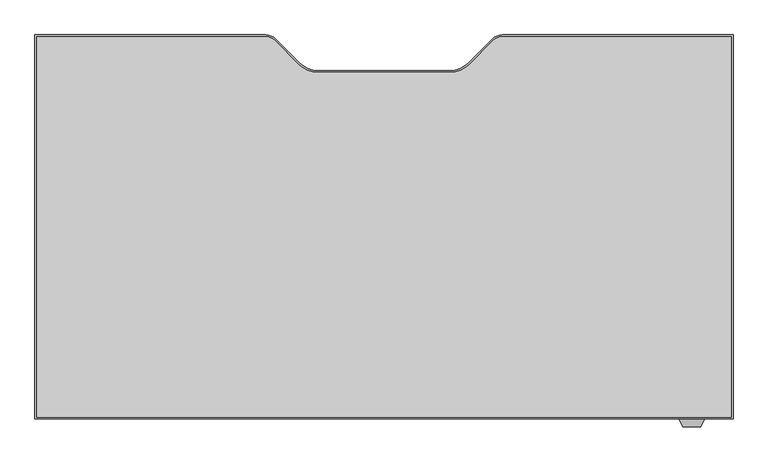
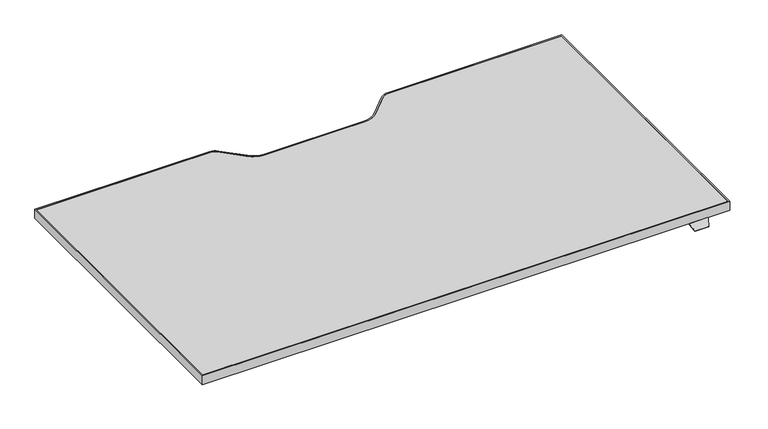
"""IFC4 building model written with IfcOpenShell, lengths in millimetres: furniture geometry, Steelcase Turnstone - Bivi - Height Adjustable Desk - C Base : 30D x 54.5W."""

import ifcopenshell
import ifcopenshell.guid

model = None  # the IFC model being written
_history = None  # IfcOwnerHistory: only IFC2X3 demands one
_inside = {}  # id of a spatial element -> (the spatial element, [elements in it])
_under = {}  # id of a project, library or spatial element -> (it, [spatial elements below it])
_declared = {}  # id of a project -> (the project, [libraries it declares])
_typed = {}  # id of a type object -> (the type object, [elements of that type])
_made_of = {}  # id of a material, layer set ... -> (it, [elements and type objects made of it])


def new_model(schema):
    """Start an empty IFC model of exactly this schema.

    Asked for "IFC4X3", IfcOpenShell would pick the latest addendum, in which some entities
    have other attributes; the version numbers below select the first issue.
    IFC2X3 requires an IfcOwnerHistory on every rooted entity: one is made here for all.
    """
    global model, _history
    if schema == "IFC4X3":
        model = ifcopenshell.file(schema_version=(4, 3, 0, 0))
    else:
        model = ifcopenshell.file(schema=schema)
    _inside.clear()
    _under.clear()
    _declared.clear()
    _typed.clear()
    _made_of.clear()
    _history = None
    if model.schema == "IFC2X3":
        org = make("IfcOrganization", Name="unknown")
        user = make(
            "IfcPersonAndOrganization",
            ThePerson=make("IfcPerson", FamilyName="unknown"),
            TheOrganization=org,
        )
        app = make(
            "IfcApplication",
            ApplicationDeveloper=org,
            Version="unknown",
            ApplicationFullName="unknown",
            ApplicationIdentifier="unknown",
        )
        _history = make(
            "IfcOwnerHistory",
            OwningUser=user,
            OwningApplication=app,
            ChangeAction="ADDED",
            CreationDate=0,
        )
    return model


def make(cls, **values):
    """One entity of the class cls with the attributes given. An attribute that is None is left unset."""
    return model.create_entity(
        cls, **{name: value for name, value in values.items() if value is not None}
    )


def rooted(cls, **values):
    """An entity with a GlobalId (a new one), such as an element, a storey or a relation."""
    return make(cls, GlobalId=ifcopenshell.guid.new(), OwnerHistory=_history, **values)


def si_unit(unit_type, name, prefix=None):
    """IfcSIUnit, for example si_unit("LENGTHUNIT", "METRE", prefix="MILLI")."""
    return make("IfcSIUnit", UnitType=unit_type, Prefix=prefix, Name=name)


def assignment(units):
    """IfcUnitAssignment: the units of a project."""
    return None if units is None else make("IfcUnitAssignment", Units=units)


def point(xyz):
    """IfcCartesianPoint."""
    return None if xyz is None else make("IfcCartesianPoint", Coordinates=xyz)


def direction(xyz):
    """IfcDirection."""
    return None if xyz is None else make("IfcDirection", DirectionRatios=xyz)


def frame(location, z_axis=None, x_axis=None):
    """IfcAxis2Placement3D, a coordinate frame: its origin and axes. An axis left out is left unset."""
    return make(
        "IfcAxis2Placement3D",
        Location=point(location),
        Axis=direction(z_axis),
        RefDirection=direction(x_axis),
    )


def frame_2d(location, x_axis=None):
    """IfcAxis2Placement2D, a coordinate frame in the plane: its origin and x axis."""
    return make(
        "IfcAxis2Placement2D", Location=point(location), RefDirection=direction(x_axis)
    )


def origin():
    """The frame at (0, 0, 0) with its axes left unset."""
    return frame((0.0, 0.0, 0.0))


def place(relative_to, where):
    """IfcLocalPlacement: puts the frame where relative to a parent placement (None: the world)."""
    return make(
        "IfcLocalPlacement", PlacementRelTo=relative_to, RelativePlacement=where
    )


def context(
    kind, dimensions, precision=None, world=None, true_north=None, identifier=None
):
    """IfcGeometricRepresentationContext, for example the 3D "Model" context."""
    return make(
        "IfcGeometricRepresentationContext",
        ContextIdentifier=identifier,
        ContextType=kind,
        CoordinateSpaceDimension=dimensions,
        Precision=precision,
        WorldCoordinateSystem=world,
        TrueNorth=true_north,
    )


def project(units=None, contexts=None):
    """IfcProject with its units and contexts."""
    return rooted(
        "IfcProject",
        Name="project",
        RepresentationContexts=contexts,
        UnitsInContext=assignment(units),
    )


def spatial(cls, under=None, at=None, **own):
    """A site, building, storey or space (cls), placed at a placement, below another one or the project."""
    s = rooted(cls, ObjectPlacement=at, **own)
    if under is not None:
        _under.setdefault(under.id(), (under, []))[1].append(s)
    return s


def polyline(points):
    """IfcPolyline through the points."""
    return make("IfcPolyline", Points=[point(p) for p in points])


def circle_curve(where, radius):
    """IfcCircle in the frame where."""
    return make("IfcCircle", Position=where, Radius=radius)


def trimmed(basis, trim1, trim2, sense, master):
    """IfcTrimmedCurve: the piece of a basis curve between two trims."""
    return make(
        "IfcTrimmedCurve",
        BasisCurve=basis,
        Trim1=trim1,
        Trim2=trim2,
        SenseAgreement=sense,
        MasterRepresentation=master,
    )


def segment(curve, same_sense, transition):
    """IfcCompositeCurveSegment."""
    return make(
        "IfcCompositeCurveSegment",
        Transition=transition,
        SameSense=same_sense,
        ParentCurve=curve,
    )


def composite_curve(segments, self_intersect=None):
    """IfcCompositeCurve: segments joined end to end."""
    return make("IfcCompositeCurve", Segments=segments, SelfIntersect=self_intersect)


def outline(outer, holes=None, kind="AREA"):
    """IfcArbitraryClosedProfileDef: a profile drawn as a closed curve; with holes, ...WithVoids."""
    if holes is None:
        return make("IfcArbitraryClosedProfileDef", ProfileType=kind, OuterCurve=outer)
    return make(
        "IfcArbitraryProfileDefWithVoids",
        ProfileType=kind,
        OuterCurve=outer,
        InnerCurves=holes,
    )


def extrude(swept, where, along, depth):
    """IfcExtrudedAreaSolid: the profile swept, set in the frame where, extruded along a direction by depth."""
    return make(
        "IfcExtrudedAreaSolid",
        SweptArea=swept,
        Position=where,
        ExtrudedDirection=direction(along),
        Depth=depth,
    )


def faces_of(points, faces, orient=None, outer=None):
    """IfcFace entities. A face is a list of loops; a loop is a list of indices into points, from 0.

    orient and outer hold one flag for each loop. By default every Orientation is true, the
    first loop of a face is its IfcFaceOuterBound and the others are IfcFaceBound.
    """
    made = []
    for i, loops in enumerate(faces):
        bounds = []
        for j, loop in enumerate(loops):
            is_outer = j == 0 if outer is None else outer[i][j]
            bounds.append(
                make(
                    "IfcFaceOuterBound" if is_outer else "IfcFaceBound",
                    Bound=make("IfcPolyLoop", Polygon=[points[k] for k in loop]),
                    Orientation=True if orient is None else orient[i][j],
                )
            )
        made.append(make("IfcFace", Bounds=bounds))
    return made


def faceted_brep(points, faces, orient=None, outer=None, voids=None):
    """IfcFacetedBrep: a solid bounded by flat faces; with voids (closed shells), ...WithVoids."""
    shared = [point(p) for p in points]
    hull = make("IfcClosedShell", CfsFaces=faces_of(shared, faces, orient, outer))
    if voids is None:
        return make("IfcFacetedBrep", Outer=hull)
    return make(
        "IfcFacetedBrepWithVoids",
        Outer=hull,
        Voids=[
            make(cls, CfsFaces=faces_of(shared, fs, o, b)) for cls, fs, o, b in voids
        ],
    )


def shape(context_of_items, identifier, shape_type, items):
    """IfcShapeRepresentation: the items that make up one representation, for example the "Body"."""
    return make(
        "IfcShapeRepresentation",
        ContextOfItems=context_of_items,
        RepresentationIdentifier=identifier,
        RepresentationType=shape_type,
        Items=items,
    )


def source(mapping_origin, context_of_items, identifier, shape_type, items):
    """IfcRepresentationMap: a shape defined once, which mapped items show again and again."""
    return make(
        "IfcRepresentationMap",
        MappingOrigin=mapping_origin,
        MappedRepresentation=shape(context_of_items, identifier, shape_type, items),
    )


def transform(
    local_origin,
    x_axis=None,
    y_axis=None,
    z_axis=None,
    scale=None,
    scale2=None,
    scale3=None,
    uniform=True,
):
    """IfcCartesianTransformationOperator3D, or its non-uniform kind. x_axis, y_axis, z_axis: its Axis1, 2, 3."""
    if uniform:
        return make(
            "IfcCartesianTransformationOperator3D",
            Axis1=direction(x_axis),
            Axis2=direction(y_axis),
            LocalOrigin=point(local_origin),
            Scale=scale,
            Axis3=direction(z_axis),
        )
    return make(
        "IfcCartesianTransformationOperator3DnonUniform",
        Axis1=direction(x_axis),
        Axis2=direction(y_axis),
        LocalOrigin=point(local_origin),
        Scale=scale,
        Axis3=direction(z_axis),
        Scale2=scale2,
        Scale3=scale3,
    )


def mapped(mapping_source, mapping_target):
    """IfcMappedItem: shows the shape of a source again, moved by a transform."""
    return make(
        "IfcMappedItem", MappingSource=mapping_source, MappingTarget=mapping_target
    )


def made_of(thing, what):
    """Note that an element or type object is made of a material, layer set ...; save() writes the relation."""
    if what is not None:
        _made_of.setdefault(what.id(), (what, []))[1].append(thing)
    return thing


def element(
    cls,
    number,
    at=None,
    inside=None,
    cuts=None,
    type_object=None,
    material=None,
    context=None,
    identifier="Body",
    shape_type=None,
    held_by="IfcProductDefinitionShape",
    body=None,
    shapes=None,
    **own,
):
    """One element of the class cls, such as IfcWall. Its Tag is "e" and its number.

    at: its placement. inside: the storey or other place that contains it. cuts: it is an
    opening in that element (IfcRelVoidsElement). A single representation is given by context,
    identifier, shape_type and body (its items); several are given by shapes. held_by: the class
    of the entity that holds the representations. save() writes the other relations.
    """
    e = rooted(cls, Tag="e%d" % number, ObjectPlacement=at, **own)
    if body is not None:
        shapes = [shape(context, identifier, shape_type, body)]
    if shapes is not None:
        e.Representation = make(held_by, Representations=shapes)
    if inside is not None:
        _inside.setdefault(inside.id(), (inside, []))[1].append(e)
    if cuts is not None:
        rooted(
            "IfcRelVoidsElement", RelatingBuildingElement=cuts, RelatedOpeningElement=e
        )
    if type_object is not None:
        _typed.setdefault(type_object.id(), (type_object, []))[1].append(e)
    return made_of(e, material)


def aggregate(whole, parts):
    """IfcRelAggregates: a whole, such as a stair, and the parts it consists of."""
    return rooted("IfcRelAggregates", RelatingObject=whole, RelatedObjects=parts)


def save(model, path):
    """Write the relations noted so far, then the file.

    IfcRelAggregates (storeys below a building ...), IfcRelContainedInSpatialStructure (elements
    in a storey), IfcRelDefinesByType, IfcRelAssociatesMaterial and IfcRelDeclares: one each for
    every whole, place, type object, material and project.
    """
    for whole, parts in _under.values():
        aggregate(whole, parts)
    for where, things in _inside.values():
        rooted(
            "IfcRelContainedInSpatialStructure",
            RelatedElements=things,
            RelatingStructure=where,
        )
    for kind, things in _typed.values():
        rooted("IfcRelDefinesByType", RelatedObjects=things, RelatingType=kind)
    for what, things in _made_of.values():
        rooted("IfcRelAssociatesMaterial", RelatedObjects=things, RelatingMaterial=what)
    for by, libraries in _declared.values():
        rooted("IfcRelDeclares", RelatingContext=by, RelatedDefinitions=libraries)
    model.write(path)


def furniture_2f688e64(model_context):
    return source(origin(), model_context, "Body", "SolidModel", [
        faceted_brep([(246.1677913, -478.5301693, 760.9984131), (246.1677913, -476.0074599, 760.9984131), (246.1677913, -476.0074599, 762.4), (246.1677913, -478.5490853, 762.4), (246.1677913, -479.8594921, 761.3004382), (246.1677913, -479.8594921, 759.8829789), (196.5948135, -478.5490853, 762.4), (196.5948135, -476.0074599, 762.4), (196.5948135, -476.0074599, 760.9984131), (196.5948135, -478.5301693, 760.9984131), (196.5948135, -479.8594921, 759.8829789), (196.5948135, -479.8594921, 761.3004382), (239.1858363, -494.8323429, 748.7367246), (203.5767685, -494.8323429, 748.7367246), (203.2173686, -494.0616074, 747.9659891), (239.5452362, -494.0616074, 747.9659891)], [[[0, 1, 2, 3, 4, 5]], [[6, 7, 8, 9, 10, 11]], [[12, 13, 14, 15]], [[9, 0, 5, 15, 14, 10]], [[1, 0, 9, 8]], [[2, 1, 8, 7]], [[3, 2, 7, 6]], [[3, 6, 11, 13, 12, 4]], [[5, 4, 12, 15]], [[11, 10, 14, 13]]]),
        extrude(outline(composite_curve([segment(polyline([(-1081.3785908, 283.4509147), (-623.9070191, 283.4509147)]), True, "CONTINUOUS"), segment(trimmed(circle_curve(frame_2d((-623.9070191, 254.7489147)), 28.702), [point((-623.9070191, 283.4509147))], [point((-603.6116402, 275.0442935))], False, "CARTESIAN"), True, "CONTINUOUS"), segment(polyline([(-603.6116402, 275.0442935), (-556.0972358, 227.5298891)]), True, "CONTINUOUS"), segment(trimmed(circle_curve(frame_2d((-520.1762113, 263.4509136)), 50.8), [point((-556.0972358, 227.5298891))], [point((-520.1762113, 212.6509136))], True, "CARTESIAN"), True, "CONTINUOUS"), segment(polyline([(-520.1762113, 212.6509136), (-258.2809703, 212.6509136)]), True, "CONTINUOUS"), segment(trimmed(circle_curve(frame_2d((-258.2809703, 263.4509136)), 50.8), [point((-258.2809703, 212.6509136))], [point((-222.3599458, 227.5298891))], True, "CARTESIAN"), True, "CONTINUOUS"), segment(polyline([(-222.3599458, 227.5298891), (-174.8455414, 275.0442935)]), True, "CONTINUOUS"), segment(trimmed(circle_curve(frame_2d((-154.5501625, 254.7489147)), 28.702), [point((-174.8455414, 275.0442935))], [point((-154.5501625, 283.4509147))], False, "CARTESIAN"), True, "CONTINUOUS"), segment(polyline([(-154.5501625, 283.4509147), (302.9214092, 283.4509147), (302.9214092, -478.5490853), (-1081.3785908, -478.5490853), (-1081.3785908, 283.4509147)]), True, "CONTINUOUS")], self_intersect=False), holes=[composite_curve([segment(polyline([(-1077.9987543, 280.1489147), (-1077.9987543, -475.2470853), (299.6194092, -475.2470853), (299.6194092, 280.1489147), (-154.5501625, 280.1489147)]), True, "CONTINUOUS"), segment(trimmed(circle_curve(frame_2d((-154.5501625, 254.7489147)), 25.4), [point((-154.5501625, 280.1489147))], [point((-172.5106748, 272.7094269))], True, "CARTESIAN"), True, "CONTINUOUS"), segment(polyline([(-172.5106748, 272.7094269), (-220.527602, 224.6924998)]), True, "CONTINUOUS"), segment(trimmed(circle_curve(frame_2d((-256.4486265, 260.6135242)), 50.8), [point((-220.527602, 224.6924998))], [point((-256.4486265, 209.8135242))], False, "CARTESIAN"), True, "CONTINUOUS"), segment(polyline([(-256.4486265, 209.8135242), (-389.2285908, 209.8135242), (-522.0085552, 209.8135242)]), True, "CONTINUOUS"), segment(trimmed(circle_curve(frame_2d((-522.0085552, 260.6135242)), 50.8), [point((-522.0085552, 209.8135242))], [point((-557.9295796, 224.6924998))], False, "CARTESIAN"), True, "CONTINUOUS"), segment(polyline([(-557.9295796, 224.6924998), (-605.9465068, 272.7094269)]), True, "CONTINUOUS"), segment(trimmed(circle_curve(frame_2d((-623.9070191, 254.7489147)), 25.4), [point((-605.9465068, 272.7094269))], [point((-623.9070191, 280.1489147))], True, "CARTESIAN"), True, "CONTINUOUS"), segment(polyline([(-623.9070191, 280.1489147), (-1077.9987543, 280.1489147)]), True, "CONTINUOUS")], self_intersect=False)]), frame((0.0, 0.0, 762.4), z_axis=(0.0, 0.0, 1.0), x_axis=(1.0, 0.0, 0.0)), (0.0, 0.0, 1.0), 25.0),
        extrude(outline(composite_curve([segment(polyline([(-1077.9987543, 280.1489147), (-623.9070191, 280.1489147)]), True, "CONTINUOUS"), segment(trimmed(circle_curve(frame_2d((-623.9070191, 254.7489147)), 25.4), [point((-623.9070191, 280.1489147))], [point((-605.9465068, 272.7094269))], False, "CARTESIAN"), True, "CONTINUOUS"), segment(polyline([(-605.9465068, 272.7094269), (-557.9295796, 224.6924998)]), True, "CONTINUOUS"), segment(trimmed(circle_curve(frame_2d((-522.0085552, 260.6135242)), 50.8), [point((-557.9295796, 224.6924998))], [point((-522.0085552, 209.8135242))], True, "CARTESIAN"), True, "CONTINUOUS"), segment(polyline([(-522.0085552, 209.8135242), (-389.2285908, 209.8135242), (-256.4486265, 209.8135242)]), True, "CONTINUOUS"), segment(trimmed(circle_curve(frame_2d((-256.4486265, 260.6135242)), 50.8), [point((-256.4486265, 209.8135242))], [point((-220.527602, 224.6924998))], True, "CARTESIAN"), True, "CONTINUOUS"), segment(polyline([(-220.527602, 224.6924998), (-172.5106748, 272.7094269)]), True, "CONTINUOUS"), segment(trimmed(circle_curve(frame_2d((-154.5501625, 254.7489147)), 25.4), [point((-172.5106748, 272.7094269))], [point((-154.5501625, 280.1489147))], False, "CARTESIAN"), True, "CONTINUOUS"), segment(polyline([(-154.5501625, 280.1489147), (299.6194092, 280.1489147), (299.6194092, -475.2470853), (-1077.9987543, -475.2470853), (-1077.9987543, 280.1489147)]), True, "CONTINUOUS")], self_intersect=False)), frame((0.0, 0.0, 762.4), z_axis=(0.0, 0.0, 1.0), x_axis=(1.0, 0.0, 0.0)), (0.0, 0.0, 1.0), 25.0),
    ])


if __name__ == "__main__":
    model = new_model("IFC4")
    model_context = context("Model", 3, world=origin())
    ifc_project = project(units=[si_unit("LENGTHUNIT", "METRE", prefix="MILLI")], contexts=[model_context])
    site = spatial("IfcSite", under=ifc_project)
    building = spatial("IfcBuilding", under=site)
    placement = place(None, origin())
    furniture_shape = furniture_2f688e64(model_context)
    element("IfcFurniture", 1, ObjectType="Steelcase Turnstone - Bivi - Height Adjustable Desk - C Base : 30D x 54.5W", at=placement, inside=building, context=model_context, shape_type="MappedRepresentation", body=[
        mapped(furniture_shape, transform((0.0, 0.0, 0.0), x_axis=(1.0, 0.0, 0.0), y_axis=(0.0, 1.0, 0.0), z_axis=(0.0, 0.0, 1.0))),
    ])
    save(model, "model.ifc")
